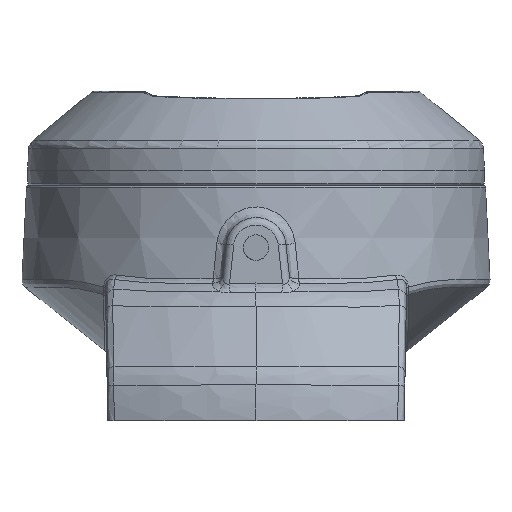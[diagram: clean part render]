
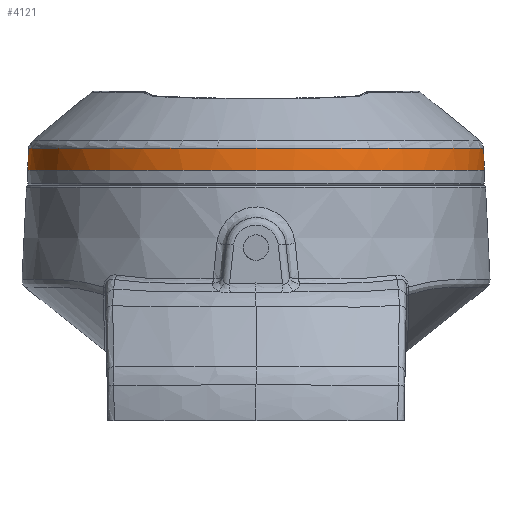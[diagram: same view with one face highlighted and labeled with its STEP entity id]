
A CAD part, front view. The second image highlights one B-rep face of the part: STEP entity #4121.
In plain terms, the highlighted conical face has half-angle 2.5 degrees and reference radius 44.458 mm.
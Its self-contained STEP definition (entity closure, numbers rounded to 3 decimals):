
#2988=CONICAL_SURFACE('',#13706,44.458,2.5);
#4121=ADVANCED_FACE('',(#4586,#4587),#2988,.T.);
#4586=FACE_BOUND('',#5117,.T.);
#4587=FACE_BOUND('',#5118,.T.);
#5117=EDGE_LOOP('',(#8561));
#5118=EDGE_LOOP('',(#8562));
#6349=CIRCLE('',#13705,44.507);
#8561=ORIENTED_EDGE('',*,*,#11838,.T.);
#8562=ORIENTED_EDGE('',*,*,#11839,.T.);
#10488=VERTEX_POINT('',#26110);
#10489=VERTEX_POINT('',#26145);
#11838=EDGE_CURVE('',#10488,#10488,#6349,.T.);
#11839=EDGE_CURVE('',#10489,#10489,#12912,.T.);
#12912=B_SPLINE_CURVE_WITH_KNOTS('',3,(#26111,#26112,#26113,#26114,#26115,
#26116,#26117,#26118,#26119,#26120,#26121,#26122,#26123,#26124,#26125,#26126,
#26127,#26128,#26129,#26130,#26131,#26132,#26133,#26134,#26135,#26136,#26137,
#26138,#26139,#26140,#26141,#26142,#26143,#26144),.UNSPECIFIED.,.T.,.F.,
(2,2,2,2,2,2,2,2,2,2,2,2,2,2,2,2,2,2,2),(-0.063,0.,0.063,0.125,0.188,
0.25,0.313,0.375,0.438,0.5,0.563,0.625,0.688,0.75,0.813,0.875,0.938,
1.,1.063),.UNSPECIFIED.);
#13705=AXIS2_PLACEMENT_3D('',#26109,#15591,#15592);
#13706=AXIS2_PLACEMENT_3D('',#26146,#15593,#15594);
#15591=DIRECTION('',(0.,0.,-1.));
#15592=DIRECTION('',(0.,-1.,0.));
#15593=DIRECTION('',(0.,0.,-1.));
#15594=DIRECTION('',(0.,-1.,0.));
#26109=CARTESIAN_POINT('',(-11.172,-137.697,24.502));
#26110=CARTESIAN_POINT('',(-11.172,-182.204,24.502));
#26111=CARTESIAN_POINT('',(-17.023,-182.389,20.243));
#26112=CARTESIAN_POINT('',(-5.322,-182.389,20.243));
#26113=CARTESIAN_POINT('',(0.526,-181.226,20.243));
#26114=CARTESIAN_POINT('',(11.336,-176.749,20.243));
#26115=CARTESIAN_POINT('',(16.294,-173.436,20.243));
#26116=CARTESIAN_POINT('',(24.567,-165.162,20.243));
#26117=CARTESIAN_POINT('',(27.88,-160.205,20.243));
#26118=CARTESIAN_POINT('',(32.357,-149.395,20.243));
#26119=CARTESIAN_POINT('',(33.521,-143.547,20.243));
#26120=CARTESIAN_POINT('',(33.521,-131.846,20.243));
#26121=CARTESIAN_POINT('',(32.357,-125.998,20.243));
#26122=CARTESIAN_POINT('',(27.88,-115.188,20.243));
#26123=CARTESIAN_POINT('',(24.567,-110.231,20.243));
#26124=CARTESIAN_POINT('',(16.294,-101.957,20.243));
#26125=CARTESIAN_POINT('',(11.336,-98.644,20.243));
#26126=CARTESIAN_POINT('',(0.526,-94.167,20.243));
#26127=CARTESIAN_POINT('',(-5.322,-93.004,20.243));
#26128=CARTESIAN_POINT('',(-17.023,-93.004,20.243));
#26129=CARTESIAN_POINT('',(-22.871,-94.167,20.243));
#26130=CARTESIAN_POINT('',(-33.68,-98.644,20.243));
#26131=CARTESIAN_POINT('',(-38.638,-101.957,20.243));
#26132=CARTESIAN_POINT('',(-46.912,-110.231,20.243));
#26133=CARTESIAN_POINT('',(-50.224,-115.188,20.243));
#26134=CARTESIAN_POINT('',(-54.702,-125.998,20.243));
#26135=CARTESIAN_POINT('',(-55.865,-131.846,20.243));
#26136=CARTESIAN_POINT('',(-55.865,-143.547,20.243));
#26137=CARTESIAN_POINT('',(-54.702,-149.395,20.243));
#26138=CARTESIAN_POINT('',(-50.224,-160.205,20.243));
#26139=CARTESIAN_POINT('',(-46.912,-165.162,20.243));
#26140=CARTESIAN_POINT('',(-38.638,-173.436,20.243));
#26141=CARTESIAN_POINT('',(-33.68,-176.749,20.243));
#26142=CARTESIAN_POINT('',(-22.871,-181.226,20.243));
#26143=CARTESIAN_POINT('',(-17.023,-182.389,20.243));
#26144=CARTESIAN_POINT('',(-5.322,-182.389,20.243));
#26145=CARTESIAN_POINT('',(-11.172,-182.39,20.243));
#26146=CARTESIAN_POINT('',(-11.172,-137.697,25.628));
